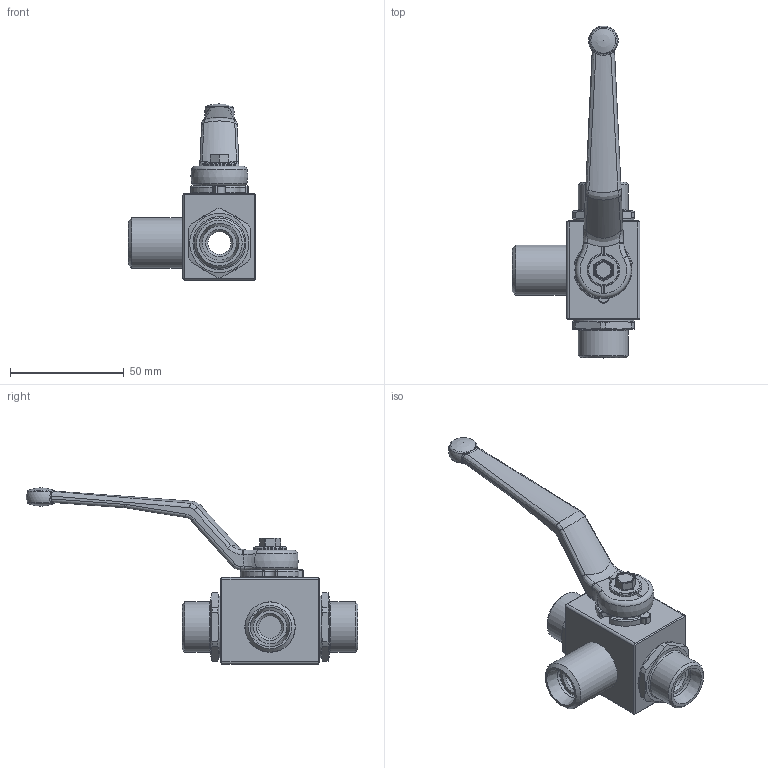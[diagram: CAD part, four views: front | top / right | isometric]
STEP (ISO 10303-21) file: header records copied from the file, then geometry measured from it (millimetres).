
FILE_DESCRIPTION( ( 'Unknown' ), '1' );
FILE_NAME( 'H:/PISTER/3D-MODELLE/BK3 stp/BK3 DN10 15L.stp', 'Unknown', ( 'Unknown' ), ( 'Unknown' ), 'PSStep 14.0', 'Unknown', ' ' );
FILE_SCHEMA( ( 'AUTOMOTIVE_DESIGN { 1 0 10303 214 1 1 1 1 }' ) );
Length unit declared in the file: millimetre
Products named in the file (10): Assem1; 06-010-104-oa7; 09-09-002; 58-28740-07-oa8; Griff_SW9; 58-0933-133; 04-010-104-oa9; 04-010-104-oa10; 04-010-093-oa11; 01-010-045-oa12
Assembly tree (9 placements, depth 2):
  Assem1
    06-010-104-oa7
    09-09-002
    58-28740-07-oa8
    Griff_SW9
    58-0933-133
    04-010-104-oa9
    04-010-104-oa10
    04-010-093-oa11
    01-010-045-oa12
Bounding box: 56 x 145.5 x 77.3 mm (x, y, z)
Volume: 38814.5 mm3; surface area: 30162.9 mm2
Topology: 9 solids, 9 shells, 387 faces, 952 edges, 573 vertices
Faces by surface type: cylinder 126, plane 125, bspline 42, torus 41, cone 33, sphere 20
Full cylindrical faces by diameter (mm): 4.2 x1, 4.98 x1, 5 x1, 10 x3, 14 x2, 14.3 x1, 15 x3, 22 x3, 22.1 x1, 27 x2, 27.5 x2
Entity records: 15750 total; most frequent: CARTESIAN_POINT 3942, DIRECTION 1847, ORIENTED_EDGE 1694, EDGE_CURVE 847, AXIS2_PLACEMENT_3D 755, VERTEX_POINT 543, EDGE_LOOP 472, FACE_OUTER_BOUND 420
